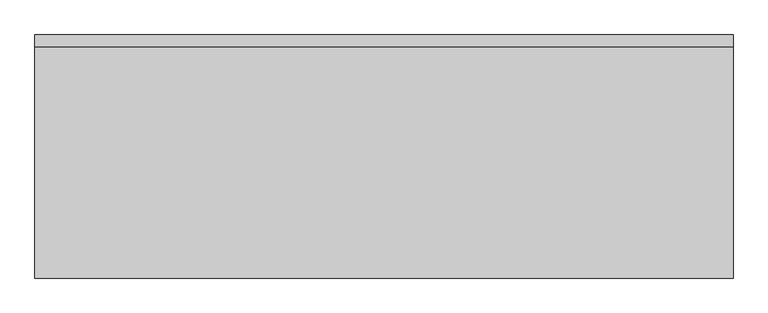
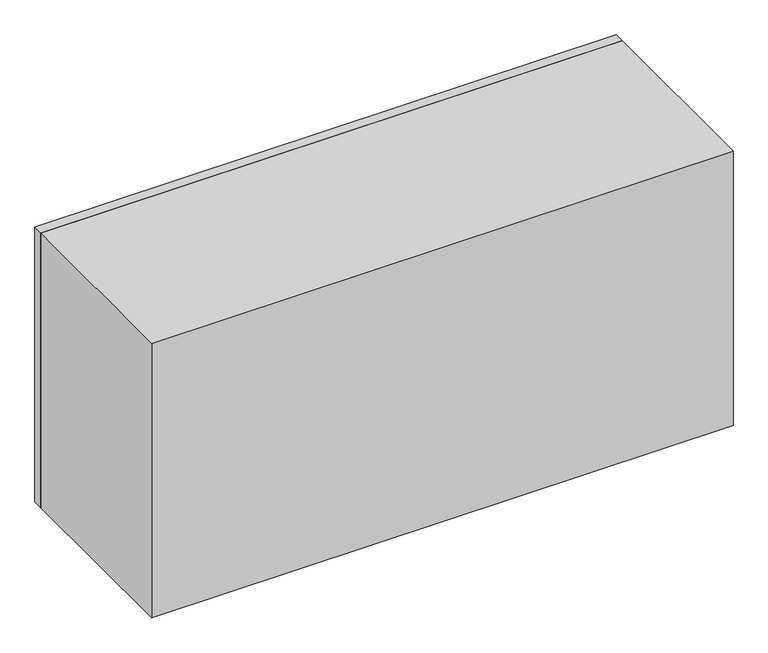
"""IFC4 building model written with IfcOpenShell, lengths in millimetres: proxy geometry, FOUNDATION^TABLE 3_42x84-1x3 STEEL BASE."""

from ifc_helpers import new_model, si_unit, frame, origin, place, context, project, spatial, polyline, outline, extrude, source, transform, mapped, element, save


def generic_models_2b252b89(model_context):
    return source(origin(), model_context, "Body", "SweptSolid", [
        extrude(outline(polyline([(2133.6, -704.85), (0.0, -704.85), (0.0, 0.0), (2133.6, 0.0), (2133.6, -704.85)])), frame((0.0, 0.0, -1066.8), z_axis=(0.0, 0.0, 1.0), x_axis=(1.0, 0.0, 0.0)), (0.0, 0.0, 1.0), 1066.8),
        extrude(outline(polyline([(2133.6, 0.0), (0.0, 0.0), (0.0, 38.1), (2133.6, 38.1), (2133.6, 0.0)])), frame((0.0, 0.0, -1066.8), z_axis=(0.0, 0.0, 1.0), x_axis=(1.0, 0.0, 0.0)), (0.0, 0.0, 1.0), 1066.8),
    ])


if __name__ == "__main__":
    model = new_model("IFC4")
    model_context = context("Model", 3, world=origin())
    ifc_project = project(units=[si_unit("LENGTHUNIT", "METRE", prefix="MILLI")], contexts=[model_context])
    site = spatial("IfcSite", under=ifc_project)
    building = spatial("IfcBuilding", under=site)
    placement = place(None, origin())
    generic_models_shape = generic_models_2b252b89(model_context)
    element("IfcBuildingElementProxy", 1, Name="FOUNDATION^TABLE 3_42x84-1x3 STEEL BASE", ObjectType="FOUNDATION^TABLE 3_42x84-1x3 STEEL BASE", at=placement, inside=building, context=model_context, shape_type="MappedRepresentation", body=[
        mapped(generic_models_shape, transform((0.0, 0.0, 0.0), x_axis=(1.0, 0.0, 0.0), y_axis=(0.0, 1.0, 0.0), z_axis=(0.0, 0.0, 1.0))),
    ])
    save(model, "model.ifc")
